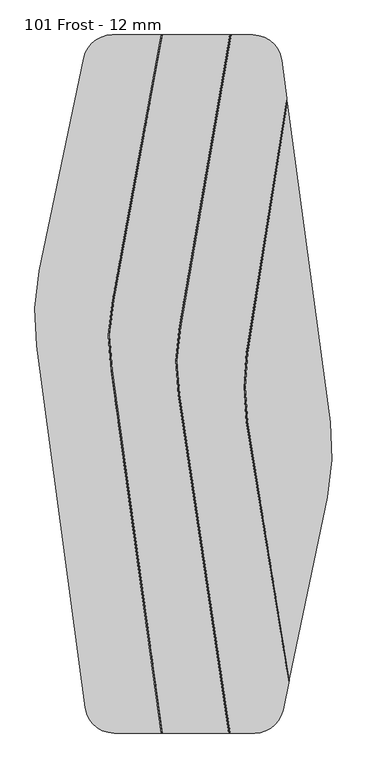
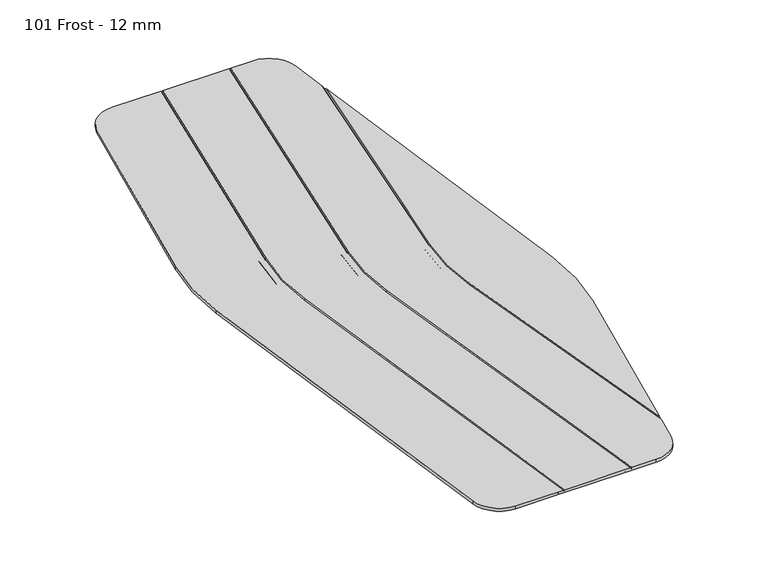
"""IFC4 building model written with IfcOpenShell, lengths in millimetres: proxy geometry, Wall-Panel-Kirei_USA-EchoScreen-Hexa_Screen : 101 Frost - 12 mm."""

from ifc_helpers import new_model, si_unit, frame, origin, place, context, project, spatial, polyline, circle_curve, source, transform, mapped, element, save
from ifc_brep_helpers import plane_surface, cylinder_surface, revolved_surface, advanced_brep


def proxy_101_frost_12_mm_b6704e68(model_context):
    return source(origin(), model_context, "Body", "AdvancedBrep", [
        advanced_brep(
        [(-301.5859973, 1371.6, 12.0054687), (-413.4850777, 1280.6042012, 12.0054687), (-587.4988382, 445.0475741, 12.0054687), (-598.1643045, 150.1582507, 12.0054687), (-407.8005655, -1272.4596236, 12.0054687), (-294.5103373, -1371.6, 12.0054687), (-108.0157019, -1371.6, 12.0054687), (-308.1449217, 52.3933911, 12.0054687), (-301.9996037, 329.2968011, 12.0054687), (-108.0162975, 1371.6, 12.0054687), (257.5907126, -1371.6, 12.0054687), (369.4898023, -1280.6041565, 12.0054687), (391.5508437, -1174.6741068, 12.0054687), (225.5001477, -149.1323237, 12.0054687), (225.0605442, 122.2610999, 12.0054687), (383.788776, 1123.1182432, 12.0054687), (363.8053395, 1272.459438, 12.0054687), (250.5150864, 1371.6, 12.0054687), (165.8841312, 1371.6, 12.0054687), (-32.9529892, 225.029702, 12.0054687), (-36.0908798, -42.2841418, 12.0054687), (162.4165678, -1371.6, 12.0054687), (543.5020649, -445.0530466, 12.0054687), (554.1676502, -150.1654892, 12.0054687), (386.4638899, 1103.1264516, 12.0054687), (230.7627822, 121.3567688, 12.0054687), (231.1994262, -148.2095244, 12.0054687), (394.8413139, -1158.8743237, 12.0054687), (-302.4276063, 53.1969074, 12.0054687), (-102.1854597, -1371.6, 12.0054687), (156.5790466, -1371.6, 12.0054687), (-41.8010661, -43.136847, 12.0054687), (-38.6415856, 226.016213, 12.0054687), (160.024455, 1371.6, 12.0054687), (-102.1436575, 1371.6, 12.0054687), (-296.3235648, 328.2404321, 12.0054687), (250.5150864, 1371.6, 0.0), (363.8053395, 1272.459438, 0.0), (373.180501, 1202.3965229, 0.0), (202.1740595, 125.1098532, 0.0), (202.5728899, -146.0221957, 0.0), (378.8375263, -1235.7193822, 0.0), (369.4898023, -1280.6041565, 0.0), (257.5907126, -1371.6, 0.0), (139.2859776, -1371.6, 0.0), (-59.078776, -43.5677229, 0.0), (-55.8452651, 230.9520337, 0.0), (142.1016347, 1371.6, 0.0), (554.1676502, -150.1654892, 0.0), (543.5020649, -445.0530466, 0.0), (382.1293319, -1219.9131867, 0.0), (208.2723117, -145.1002823, 0.0), (207.8761688, 124.2047111, 0.0), (375.8543419, 1182.4142442, 0.0), (-294.5103373, -1371.6, 0.0), (-407.8005655, -1272.4596236, 0.0), (-598.1643045, 150.1582507, 0.0), (-587.4988382, 445.0475741, 0.0), (-413.4850777, 1280.6042012, 0.0), (-301.5859973, 1371.6, 0.0), (-131.7860386, 1371.6, 0.0), (-325.3509714, 334.8024651, 0.0), (-331.6296171, 55.107571, 0.0), (-131.0389251, -1371.6, 0.0), (136.2418401, 1371.6, 0.0), (-61.5337466, 231.9392071, 0.0), (-64.7889315, -44.4206341, 0.0), (133.448425, -1371.6, 0.0), (-125.2086378, -1371.6, 0.0), (-325.9123459, 55.9114017, 0.0), (-319.6755303, 333.7428886, 0.0), (-125.9127799, 1371.6, 0.0), (139.1717374, 1371.6, 5.0), (-128.8494093, 1371.6, 5.0), (-105.0799775, 1371.6, 7.0054687), (162.9542931, 1371.6, 7.0054687), (-128.1237815, -1371.6, 5.0), (136.3672013, -1371.6, 5.0), (159.4978072, -1371.6, 7.0054687), (-105.1005808, -1371.6, 7.0054687), (380.4834291, -1227.8162845, 5.0), (393.1960788, -1166.7742152, 7.0054687), (374.5174214, 1192.4053835, 5.0), (385.1263329, 1113.1223474, 7.0054687), (-305.286264, 52.7951493, 7.0054687), (-299.1615843, 328.7686166, 7.0054687), (-35.7972874, 225.5229575, 7.0054687), (-38.945973, -42.7104944, 7.0054687), (227.9116632, 121.8089343, 7.0054687), (228.3497869, -148.6709241, 7.0054687), (-328.7709815, 55.5094863, 5.0), (-322.5132508, 334.2726769, 5.0), (-58.6895058, 231.4456204, 5.0), (-61.9338538, -43.9941785, 5.0), (205.0251142, 124.6572821, 5.0), (205.4226008, -145.561239, 5.0)],
        [
            (0, 1, circle_curve(frame((-301.5859973, 1257.3, 12.0054687), z_axis=(0.0, 0.0, 1.0), x_axis=(1.0, 0.0, 0.0)), 114.3)),
            (1, 2),
            (2, 3, circle_curve(frame((270.3941119, 266.3820313, 12.0054687), z_axis=(0.0, 0.0, 1.0), x_axis=(1.0, 0.0, 0.0)), 876.3)),
            (3, 4),
            (4, 5, circle_curve(frame((-294.5103373, -1257.3, 12.0054687), z_axis=(0.0, 0.0, 1.0), x_axis=(1.0, 0.0, 0.0)), 114.3)),
            (5, 6),
            (6, 7),
            (7, 8, circle_curve(frame((543.0603301, 172.0224877, 12.0054687), z_axis=(0.0, 0.0, -1.0), x_axis=(-0.9902680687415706, -0.1391731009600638, 0.0)), 859.5705331)),
            (8, 9),
            (9, 0),
            (10, 11, circle_curve(frame((257.5907126, -1257.3, 12.0054687), z_axis=(0.0, 0.0, 1.0), x_axis=(1.0, 0.0, 0.0)), 114.3)),
            (11, 12),
            (12, 13),
            (13, 14, circle_curve(frame((1072.0444496, -12.064022, 12.0054687), z_axis=(0.0, 0.0, -1.0), x_axis=(-0.9876566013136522, 0.15663472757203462, 0.0)), 857.5692243)),
            (14, 15),
            (15, 16),
            (16, 17, circle_curve(frame((250.5150864, 1257.3, 12.0054687), z_axis=(0.0, 0.0, 1.0), x_axis=(1.0, 0.0, 0.0)), 114.3)),
            (17, 18),
            (18, 19),
            (19, 20, circle_curve(frame((793.834347, 81.6490359, 12.0054687), z_axis=(0.0, 0.0, 1.0), x_axis=(-0.9852938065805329, 0.17086870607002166, 0.0)), 839.1277106)),
            (20, 21),
            (21, 10),
            (22, 23, circle_curve(frame((-314.3909567, -266.3878471, 12.0054687), z_axis=(0.0, 0.0, 1.0), x_axis=(1.0, 0.0, 0.0)), 876.3)),
            (23, 24),
            (24, 25),
            (25, 26, circle_curve(frame((1072.0444496, -12.064022, 12.0054687), z_axis=(0.0, 0.0, 1.0), x_axis=(-0.9876566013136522, 0.15663472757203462, 0.0)), 851.7957216)),
            (26, 27),
            (27, 22),
            (28, 29),
            (29, 30),
            (30, 31),
            (31, 32, circle_curve(frame((793.834347, 81.6490359, 12.0054687), z_axis=(0.0, 0.0, -1.0), x_axis=(-0.9852938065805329, 0.17086870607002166, 0.0)), 844.9012133)),
            (32, 33),
            (33, 34),
            (34, 35),
            (35, 28, circle_curve(frame((543.0603301, 172.0224877, 12.0054687), z_axis=(0.0, 0.0, 1.0), x_axis=(-0.9902680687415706, -0.1391731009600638, 0.0)), 853.7970304)),
            (36, 37, circle_curve(frame((250.5150864, 1257.3, 0.0), z_axis=(0.0, 0.0, -1.0), x_axis=(1.0, 0.0, 0.0)), 114.3)),
            (37, 38),
            (38, 39),
            (39, 40, circle_curve(frame((1048.3577723, -9.2117436, 0.0), z_axis=(0.0, 0.0, 1.0), x_axis=(-0.9876343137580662, 0.15677519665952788, 0.0)), 856.7783653)),
            (40, 41),
            (41, 42),
            (42, 43, circle_curve(frame((257.5907126, -1257.3, 0.0), z_axis=(0.0, 0.0, -1.0), x_axis=(1.0, 0.0, 0.0)), 114.3)),
            (43, 44),
            (44, 45),
            (45, 46, circle_curve(frame((792.8116986, 83.6769586, 0.0), z_axis=(0.0, 0.0, -1.0), x_axis=(-0.9852739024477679, 0.17098344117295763, 0.0)), 861.3411576)),
            (46, 47),
            (47, 36),
            (48, 49, circle_curve(frame((-314.3909567, -266.3878471, 0.0), z_axis=(0.0, 0.0, -1.0), x_axis=(1.0, 0.0, 0.0)), 876.3)),
            (49, 50),
            (50, 51),
            (51, 52, circle_curve(frame((1048.3577723, -9.2117436, 0.0), z_axis=(0.0, 0.0, -1.0), x_axis=(-0.9876343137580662, 0.15677519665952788, 0.0)), 851.0048626)),
            (52, 53),
            (53, 48),
            (54, 55, circle_curve(frame((-294.5103373, -1257.3, 0.0), z_axis=(0.0, 0.0, -1.0), x_axis=(1.0, 0.0, 0.0)), 114.3)),
            (55, 56),
            (56, 57, circle_curve(frame((270.3941119, 266.3820313, 0.0), z_axis=(0.0, 0.0, -1.0), x_axis=(1.0, 0.0, 0.0)), 876.3)),
            (57, 58),
            (58, 59, circle_curve(frame((-301.5859973, 1257.3, 0.0), z_axis=(0.0, 0.0, -1.0), x_axis=(1.0, 0.0, 0.0)), 114.3)),
            (59, 60),
            (60, 61),
            (61, 62, circle_curve(frame((526.5249959, 175.7614675, 0.0), z_axis=(0.0, 0.0, 1.0), x_axis=(-0.9902604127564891, -0.13922756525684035, 0.0)), 866.5948895)),
            (62, 63),
            (63, 54),
            (64, 65),
            (65, 66, circle_curve(frame((792.8116986, 83.6769586, 0.0), z_axis=(0.0, 0.0, 1.0), x_axis=(-0.9852739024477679, 0.17098344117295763, 0.0)), 867.1146603)),
            (66, 67),
            (67, 68),
            (68, 69),
            (69, 70, circle_curve(frame((526.5249959, 175.7614675, 0.0), z_axis=(0.0, 0.0, -1.0), x_axis=(-0.9902604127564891, -0.13922756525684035, 0.0)), 860.8213868)),
            (70, 71),
            (71, 64),
            (17, 36),
            (47, 72),
            (72, 64),
            (71, 73),
            (73, 60),
            (59, 0),
            (9, 74),
            (74, 34),
            (33, 75),
            (75, 18),
            (5, 54),
            (63, 76),
            (76, 68),
            (67, 77),
            (77, 44),
            (43, 10),
            (21, 78),
            (78, 30),
            (29, 79),
            (79, 6),
            (58, 1),
            (57, 2),
            (56, 3),
            (55, 4),
            (42, 11),
            (41, 80),
            (80, 50),
            (49, 22),
            (27, 81),
            (81, 12),
            (48, 23),
            (53, 82),
            (82, 38),
            (37, 16),
            (15, 83),
            (83, 24),
            (84, 7),
            (79, 84),
            (28, 84),
            (84, 85, circle_curve(frame((543.0603301, 172.0224877, 7.0054687), z_axis=(0.0, 0.0, -1.0), x_axis=(-0.9902680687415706, -0.1391731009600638, 0.0)), 856.6837817)),
            (85, 8),
            (35, 85),
            (85, 74),
            (86, 19),
            (75, 86),
            (32, 86),
            (86, 87, circle_curve(frame((793.834347, 81.6490359, 7.0054687), z_axis=(0.0, 0.0, 1.0), x_axis=(-0.9852938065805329, 0.17086870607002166, 0.0)), 842.0144619)),
            (87, 20),
            (31, 87),
            (87, 78),
            (88, 25),
            (83, 88),
            (14, 88),
            (88, 89, circle_curve(frame((1072.0444496, -12.064022, 7.0054687), z_axis=(0.0, 0.0, 1.0), x_axis=(-0.9876566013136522, 0.15663472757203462, 0.0)), 854.6824729)),
            (89, 26),
            (13, 89),
            (89, 81),
            (90, 69),
            (76, 90),
            (62, 90),
            (90, 91, circle_curve(frame((526.5249959, 175.7614675, 5.0), z_axis=(0.0, 0.0, -1.0), x_axis=(-0.9902604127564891, -0.13922756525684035, 0.0)), 863.7081381)),
            (91, 70),
            (61, 91),
            (91, 73),
            (92, 65),
            (72, 92),
            (46, 92),
            (92, 93, circle_curve(frame((792.8116986, 83.6769586, 5.0), z_axis=(0.0, 0.0, 1.0), x_axis=(-0.9852739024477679, 0.17098344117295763, 0.0)), 864.227909)),
            (93, 66),
            (45, 93),
            (93, 77),
            (94, 39),
            (82, 94),
            (52, 94),
            (94, 95, circle_curve(frame((1048.3577723, -9.2117436, 5.0), z_axis=(0.0, 0.0, 1.0), x_axis=(-0.9876343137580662, 0.15677519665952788, 0.0)), 853.891614)),
            (95, 40),
            (51, 95),
            (95, 80),
        ],
        [
            plane_surface(frame((-609.6, 1371.6, 12.0054687), z_axis=(0.0, 0.0, 1.0), x_axis=(-1.0, 0.0, 0.0))),
            plane_surface(frame((-609.6, 1371.6, 0.0), z_axis=(0.0, 0.0, -1.0), x_axis=(1.0, 0.0, 0.0))),
            plane_surface(frame((250.5150864, 1371.6, 12.0054687), z_axis=(0.0, 1.0, 0.0), x_axis=(0.0, 0.0, -1.0))),
            plane_surface(frame((-294.5103373, -1371.6, 12.0054687), z_axis=(0.0, -1.0, 0.0), x_axis=(0.0, 0.0, -1.0))),
            cylinder_surface(frame((-301.5859973, 1257.3, 0.0), z_axis=(0.0, 0.0, 1.0), x_axis=(1.0, 0.0, 0.0)), 114.3),
            plane_surface(frame((-413.4850777, 1280.6042012, 12.0054687), z_axis=(-0.9789945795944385, 0.2038862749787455, 0.0), x_axis=(0.0, 0.0, -1.0))),
            cylinder_surface(frame((270.3941119, 266.3820313, 0.0), z_axis=(0.0, 0.0, 1.0), x_axis=(1.0, 0.0, 0.0)), 876.3),
            plane_surface(frame((-598.1643045, 150.1582507, 12.0054687), z_axis=(-0.9911656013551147, -0.1326301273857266, 0.0), x_axis=(0.0, 0.0, -1.0))),
            cylinder_surface(frame((-294.5103373, -1257.3, 0.0), z_axis=(0.0, 0.0, 1.0), x_axis=(1.0, 0.0, 0.0)), 114.3),
            cylinder_surface(frame((257.5907126, -1257.3, 0.0), z_axis=(0.0, 0.0, 1.0), x_axis=(1.0, 0.0, 0.0)), 114.3),
            plane_surface(frame((369.4898023, -1280.6041565, 12.0054687), z_axis=(0.9789946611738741, -0.2038858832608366, 0.0), x_axis=(0.0, 0.0, -1.0))),
            cylinder_surface(frame((-314.3909567, -266.3878471, 0.0), z_axis=(0.0, 0.0, 1.0), x_axis=(1.0, 0.0, 0.0)), 876.3),
            plane_surface(frame((554.1676502, -150.1654892, 12.0054687), z_axis=(0.9911658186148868, 0.13262850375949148, 0.0), x_axis=(0.0, 0.0, -1.0))),
            cylinder_surface(frame((250.5150864, 1257.3, 0.0), z_axis=(0.0, 0.0, 1.0), x_axis=(1.0, 0.0, 0.0)), 114.3),
            plane_surface(frame((-94.9496265, -1464.5699568, 12.0054687), z_axis=(0.8575973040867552, 0.12052744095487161, 0.4999999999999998), x_axis=(-0.1391731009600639, 0.9902680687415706, 0.0))),
            plane_surface(frame((-92.0909688, -1464.1681987, 7.0054687), z_axis=(-0.8575973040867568, -0.12052744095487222, 0.4999999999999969), x_axis=(-0.13917310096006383, 0.9902680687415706, 0.0))),
            revolved_surface(polyline([(-305.286264, 52.7951493, 7.0054687), (-308.1449217, 52.3933911, 12.0054687)]), (543.0603301, 172.0224877, 12.0054687), (0.0, 0.0, -1.0)),
            revolved_surface(polyline([(-302.4276063, 53.1969074, 12.0054687), (-305.286264, 52.7951493, 7.0054687)]), (543.0603301, 172.0224877, 12.0054687), (0.0, 0.0, -1.0)),
            plane_surface(frame((-301.9996037, 329.2968011, 12.0054687), z_axis=(0.8514058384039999, -0.15845535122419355, 0.49999999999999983), x_axis=(0.18296847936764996, 0.9831187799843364, 0.0))),
            plane_surface(frame((-299.1615843, 328.7686166, 7.0054687), z_axis=(-0.8514058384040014, 0.15845535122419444, 0.49999999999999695), x_axis=(0.18296847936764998, 0.9831187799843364, 0.0))),
            plane_surface(frame((184.147158, 1476.9115437, 12.0054687), z_axis=(-0.8532894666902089, 0.14797664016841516, 0.5000000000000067), x_axis=(-0.1708687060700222, -0.9852938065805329, 0.0))),
            plane_surface(frame((181.3028598, 1477.4047992, 7.0054687), z_axis=(0.853289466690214, -0.14797664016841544, 0.4999999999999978), x_axis=(-0.17086870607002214, -0.9852938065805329, 0.0))),
            revolved_surface(polyline([(-35.7972874, 225.5229575, 7.0054687), (-32.9529892, 225.029702, 12.0054687)]), (793.834347, 81.6490359, 12.0054687), (0.0, 0.0, 1.0)),
            revolved_surface(polyline([(-38.6415856, 226.016213, 12.0054687), (-35.7972874, 225.5229575, 7.0054687)]), (793.834347, 81.6490359, 12.0054687), (0.0, 0.0, 1.0)),
            plane_surface(frame((-36.0908798, -42.2841418, 12.0054687), z_axis=(-0.856527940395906, -0.12790577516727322, 0.5000000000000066), x_axis=(0.14769286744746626, -0.9890332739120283, 0.0))),
            plane_surface(frame((-38.945973, -42.7104944, 7.0054687), z_axis=(0.8565279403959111, 0.1279057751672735, 0.4999999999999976), x_axis=(0.14769286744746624, -0.9890332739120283, 0.0))),
            plane_surface(frame((428.9700162, 1371.1478345, 12.0054687), z_axis=(-0.8553357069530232, 0.1356496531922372, 0.4999999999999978), x_axis=(-0.15663472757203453, -0.9876566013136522, 0.0))),
            plane_surface(frame((426.1188972, 1371.6, 7.0054687), z_axis=(0.855335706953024, -0.13564965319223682, 0.49999999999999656), x_axis=(-0.15663472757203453, -0.9876566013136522, 0.0))),
            revolved_surface(polyline([(227.9116632, 121.8089343, 7.0054687), (230.7627822, 121.3567688, 12.0054687)]), (1072.0444496, -12.064022, 12.0054687), (0.0, 0.0, 1.0)),
            revolved_surface(polyline([(225.0605442, 122.2610999, 12.0054687), (227.9116632, 121.8089343, 7.0054687)]), (1072.0444496, -12.064022, 12.0054687), (0.0, 0.0, 1.0)),
            plane_surface(frame((231.1994262, -148.2095244, 12.0054687), z_axis=(-0.8548917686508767, -0.13841988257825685, 0.4999999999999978), x_axis=(0.15983351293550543, -0.9871439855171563, 0.0))),
            plane_surface(frame((228.3497869, -148.6709241, 7.0054687), z_axis=(0.8548917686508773, 0.13841988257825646, 0.49999999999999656), x_axis=(0.15983351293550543, -0.9871439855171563, 0.0))),
            plane_surface(frame((-105.3863913, -1512.5863483, 0.0), z_axis=(-0.8575906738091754, -0.12057460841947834, -0.5000000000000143), x_axis=(-0.13922756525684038, 0.9902604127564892, 0.0))),
            plane_surface(frame((-108.2450269, -1512.9882636, 5.0), z_axis=(0.8575906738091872, 0.12057460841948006, -0.49999999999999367), x_axis=(-0.13922756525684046, 0.9902604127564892, 0.0))),
            revolved_surface(polyline([(-328.7709815, 55.5094863, 5.0), (-325.9123459, 55.9114017, 0.0)]), (526.5249959, 175.7614675, 0.0), (0.0, 0.0, -1.0)),
            revolved_surface(polyline([(-331.6296171, 55.107571, 0.0), (-328.7709815, 55.5094863, 5.0)]), (526.5249959, 175.7614675, 0.0), (0.0, 0.0, -1.0)),
            plane_surface(frame((-319.6755303, 333.7428886, 0.0), z_axis=(-0.851316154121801, 0.15893648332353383, -0.5000000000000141), x_axis=(0.18352404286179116, 0.9830152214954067, 0.0))),
            plane_surface(frame((-322.5132508, 334.2726769, 5.0), z_axis=(0.8513161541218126, -0.15893648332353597, -0.4999999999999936), x_axis=(0.18352404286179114, 0.9830152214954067, 0.0))),
            plane_surface(frame((152.9002899, 1467.5925456, 0.0), z_axis=(0.8532722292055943, -0.1480760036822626, -0.5000000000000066), x_axis=(-0.17098344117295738, -0.985273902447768, 0.0))),
            plane_surface(frame((155.7445306, 1467.0989589, 5.0), z_axis=(-0.8532722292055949, 0.1480760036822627, -0.5000000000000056), x_axis=(-0.17098344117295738, -0.985273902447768, 0.0))),
            revolved_surface(polyline([(-58.6895058, 231.4456204, 5.0), (-61.5337466, 231.9392071, 0.0)]), (792.8116986, 83.6769586, 0.0), (0.0, 0.0, 1.0)),
            revolved_surface(polyline([(-55.8452651, 230.9520337, 0.0), (-58.6895058, 231.4456204, 5.0)]), (792.8116986, 83.6769586, 0.0), (0.0, 0.0, 1.0)),
            plane_surface(frame((-64.7889315, -44.4206341, 0.0), z_axis=(0.8565233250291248, 0.12793667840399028, -0.5000000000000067), x_axis=(0.14772855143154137, -0.9890279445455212, 0.0))),
            plane_surface(frame((-61.9338538, -43.9941785, 5.0), z_axis=(-0.8565233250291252, -0.1279366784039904, -0.5000000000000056), x_axis=(0.1477285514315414, -0.9890279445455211, 0.0))),
            plane_surface(frame((397.1284664, 1353.2611549, 0.0), z_axis=(0.8553164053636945, -0.1357713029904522, -0.5000000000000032), x_axis=(-0.15677519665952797, -0.9876343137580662, 0.0))),
            plane_surface(frame((399.979521, 1352.8085839, 5.0), z_axis=(-0.8553164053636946, 0.13577130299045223, -0.5000000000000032), x_axis=(-0.156775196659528, -0.9876343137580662, 0.0))),
            revolved_surface(polyline([(205.0251142, 124.6572821, 5.0), (202.1740595, 125.1098532, 0.0)]), (1048.3577723, -9.2117436, 0.0), (0.0, 0.0, 1.0)),
            revolved_surface(polyline([(207.8761688, 124.2047111, 0.0), (205.0251142, 124.6572821, 5.0)]), (1048.3577723, -9.2117436, 0.0), (0.0, 0.0, 1.0)),
            plane_surface(frame((202.5728899, -146.0221957, 0.0), z_axis=(0.8549132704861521, 0.13828702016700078, -0.5000000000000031), x_axis=(0.15968009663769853, -0.9871688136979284, 0.0))),
            plane_surface(frame((205.4226008, -145.561239, 5.0), z_axis=(-0.8549132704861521, -0.1382870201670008, -0.5000000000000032), x_axis=(0.15968009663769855, -0.9871688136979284, 0.0))),
        ],
        [
            (0, [[1, 2, 3, 4, 5, 6, 7, 8, 9, 10]]),
            (0, [[11, 12, 13, 14, 15, 16, 17, 18, 19, 20, 21, 22]]),
            (0, [[23, 24, 25, 26, 27, 28]]),
            (0, [[29, 30, 31, 32, 33, 34, 35, 36]]),
            (1, [[37, 38, 39, 40, 41, 42, 43, 44, 45, 46, 47, 48]]),
            (1, [[49, 50, 51, 52, 53, 54]]),
            (1, [[55, 56, 57, 58, 59, 60, 61, 62, 63, 64]]),
            (1, [[65, 66, 67, 68, 69, 70, 71, 72]]),
            (2, [[73, -48, 74, 75, -72, 76, 77, -60, 78, -10, 79, 80, -34, 81, 82, -18]]),
            (3, [[83, -64, 84, 85, -68, 86, 87, -44, 88, -22, 89, 90, -30, 91, 92, -6]]),
            (4, [[-1, -78, -59, 93]]),
            (5, [[-2, -93, -58, 94]]),
            (6, [[-3, -94, -57, 95]]),
            (7, [[-4, -95, -56, 96]]),
            (8, [[-5, -96, -55, -83]]),
            (9, [[-11, -88, -43, 97]]),
            (10, [[-97, -42, 98, 99, -50, 100, -28, 101, 102, -12]]),
            (11, [[-23, -100, -49, 103]]),
            (12, [[-103, -54, 104, 105, -38, 106, -16, 107, 108, -24]]),
            (13, [[-17, -106, -37, -73]]),
            (14, [[109, -7, -92, 110]]),
            (15, [[111, -110, -91, -29]]),
            (16, [[-109, 112, 113, -8]]),
            (17, [[-111, -36, 114, -112]]),
            (18, [[-113, 115, -79, -9]]),
            (19, [[-114, -35, -80, -115]]),
            (20, [[116, -19, -82, 117]]),
            (21, [[118, -117, -81, -33]]),
            (22, [[-116, 119, 120, -20]]),
            (23, [[-118, -32, 121, -119]]),
            (24, [[-120, 122, -89, -21]]),
            (25, [[-121, -31, -90, -122]]),
            (26, [[123, -25, -108, 124]]),
            (27, [[125, -124, -107, -15]]),
            (28, [[-123, 126, 127, -26]]),
            (29, [[-125, -14, 128, -126]]),
            (30, [[-127, 129, -101, -27]]),
            (31, [[-128, -13, -102, -129]]),
            (32, [[130, -69, -85, 131]]),
            (33, [[132, -131, -84, -63]]),
            (34, [[-130, 133, 134, -70]]),
            (35, [[-132, -62, 135, -133]]),
            (36, [[-134, 136, -76, -71]]),
            (37, [[-135, -61, -77, -136]]),
            (38, [[137, -65, -75, 138]]),
            (39, [[139, -138, -74, -47]]),
            (40, [[-137, 140, 141, -66]]),
            (41, [[-139, -46, 142, -140]]),
            (42, [[-141, 143, -86, -67]]),
            (43, [[-142, -45, -87, -143]]),
            (44, [[144, -39, -105, 145]]),
            (45, [[146, -145, -104, -53]]),
            (46, [[-144, 147, 148, -40]]),
            (47, [[-146, -52, 149, -147]]),
            (48, [[-148, 150, -98, -41]]),
            (49, [[-149, -51, -99, -150]]),
        ],
    ),
    ])


if __name__ == "__main__":
    model = new_model("IFC4")
    model_context = context("Model", 3, world=origin())
    ifc_project = project(units=[si_unit("LENGTHUNIT", "METRE", prefix="MILLI")], contexts=[model_context])
    site = spatial("IfcSite", under=ifc_project)
    building = spatial("IfcBuilding", under=site)
    placement = place(None, origin())
    proxy_101_frost_12_mm_shape = proxy_101_frost_12_mm_b6704e68(model_context)
    element("IfcBuildingElementProxy", 1, Name="Wall-Panel-Kirei_USA-EchoScreen-Hexa_Screen : 101 Frost - 12 mm", ObjectType="Wall-Panel-Kirei_USA-EchoScreen-Hexa_Screen : 101 Frost - 12 mm", at=placement, inside=building, context=model_context, shape_type="MappedRepresentation", body=[
        mapped(proxy_101_frost_12_mm_shape, transform((0.0, 0.0, 0.0), x_axis=(1.0, 0.0, 0.0), y_axis=(0.0, 1.0, 0.0), z_axis=(0.0, 0.0, 1.0))),
    ])
    save(model, "model.ifc")
